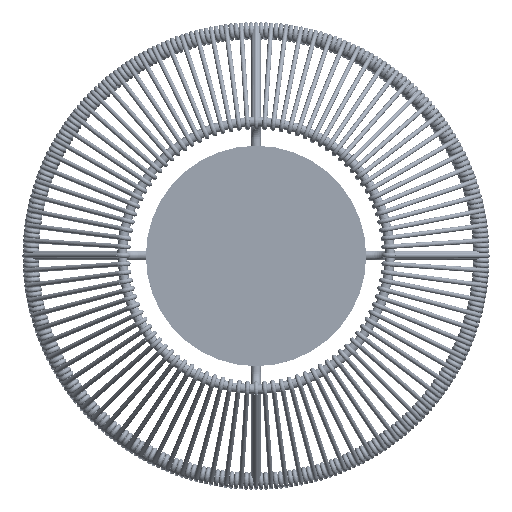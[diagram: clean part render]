
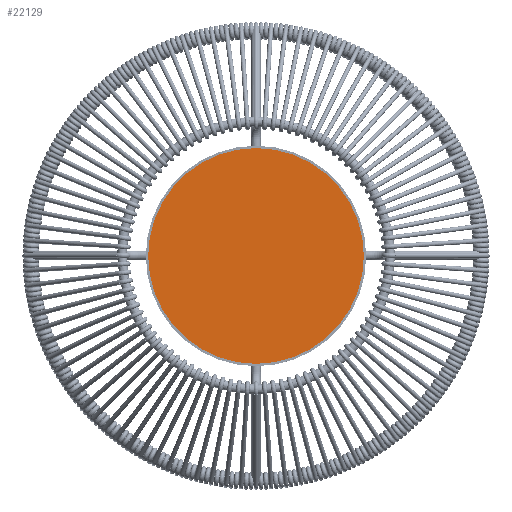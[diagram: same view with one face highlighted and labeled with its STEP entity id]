
A CAD part, top view. The second image highlights one B-rep face of the part: STEP entity #22129.
In plain terms, the highlighted planar face has unit normal (0, 0, 1).
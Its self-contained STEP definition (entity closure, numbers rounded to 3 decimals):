
#2908=PLANE('',#27243);
#5072=CIRCLE('',#27242,91.);
#7624=FACE_OUTER_BOUND('',#9496,.T.);
#9496=EDGE_LOOP('',(#19850));
#11914=VERTEX_POINT('',#43013);
#14560=EDGE_CURVE('',#11914,#11914,#5072,.T.);
#19850=ORIENTED_EDGE('',*,*,#14560,.F.);
#22129=ADVANCED_FACE('',(#7624),#2908,.T.);
#27242=AXIS2_PLACEMENT_3D('',#43015,#35729,#35730);
#27243=AXIS2_PLACEMENT_3D('',#43016,#35731,#35732);
#35729=DIRECTION('center_axis',(0.,0.,-1.));
#35730=DIRECTION('ref_axis',(-1.,0.,0.));
#35731=DIRECTION('center_axis',(0.,0.,1.));
#35732=DIRECTION('ref_axis',(-1.,0.,0.));
#43013=CARTESIAN_POINT('',(91.,3.,597.));
#43015=CARTESIAN_POINT('Origin',(0.,3.,597.));
#43016=CARTESIAN_POINT('Origin',(0.,3.,597.));
